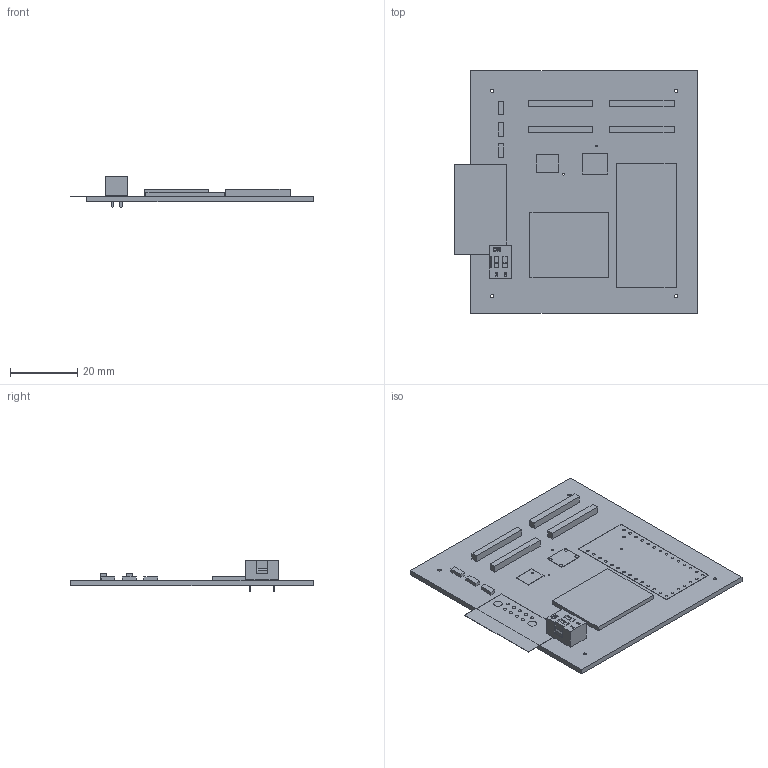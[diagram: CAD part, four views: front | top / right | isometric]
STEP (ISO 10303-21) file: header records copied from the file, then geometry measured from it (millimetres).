
FILE_DESCRIPTION(/* description */ (''),/* implementation_level */ '2;1');
FILE_NAME(/* name */ 'c:\worker\convert-fusion-r06\tmp\job-1\14\output\files\73b7d916-cc5b-4d38-be35-d8ec3cb8c1a0\3fa241ff-7fde-4545-85a8-43046f51bfcb.stp',/* time_stamp */ '2020-08-29T10:38:00+00:00',/* author */ (''),/* organization */ (''),/* preprocessor_version */ 'ST-DEVELOPER v18.1',/* originating_system */ 'Autodesk Translation Framework v9.3.0.1241',/* authorisation */ '');
FILE_SCHEMA (('AUTOMOTIVE_DESIGN { 1 0 10303 214 3 1 1 }'));
Length unit declared in the file: millimetre
Products named in the file (11): 3fa241ff-7fde-4545-85a8-43046f51bfcb; PCB Component; Board; 0.1uF; 1N5333; DTS-6; EDG-02; TEENSY4.0; MAX13054ASA; XBEE; M83513/10-A01NP
Assembly tree (15 placements, depth 3):
  3fa241ff-7fde-4545-85a8-43046f51bfcb
    PCB Component
      Board
      0.1uF  x3
      1N5333  x4
      DTS-6
      EDG-02
      TEENSY4.0
      MAX13054ASA
      XBEE
      M83513/10-A01NP
Bounding box: 72.12 x 72.06 x 9.1 mm (x, y, z)
Volume: 8920.7 mm3; surface area: 14857.2 mm2
Topology: 14 solids, 14 shells, 307 faces, 792 edges, 524 vertices
Faces by surface type: plane 182, cylinder 99, bspline 26
Full cylindrical faces by diameter (mm): 0.508 x4, 0.8 x54, 0.813 x10, 1 x8, 1.02 x9, 1.397 x8, 2.57 x2
Entity records: 9787 total; most frequent: CARTESIAN_POINT 1985, ORIENTED_EDGE 1464, DIRECTION 1432, EDGE_CURVE 732, VERTEX_POINT 484, LINE 482, VECTOR 482, EDGE_LOOP 478
